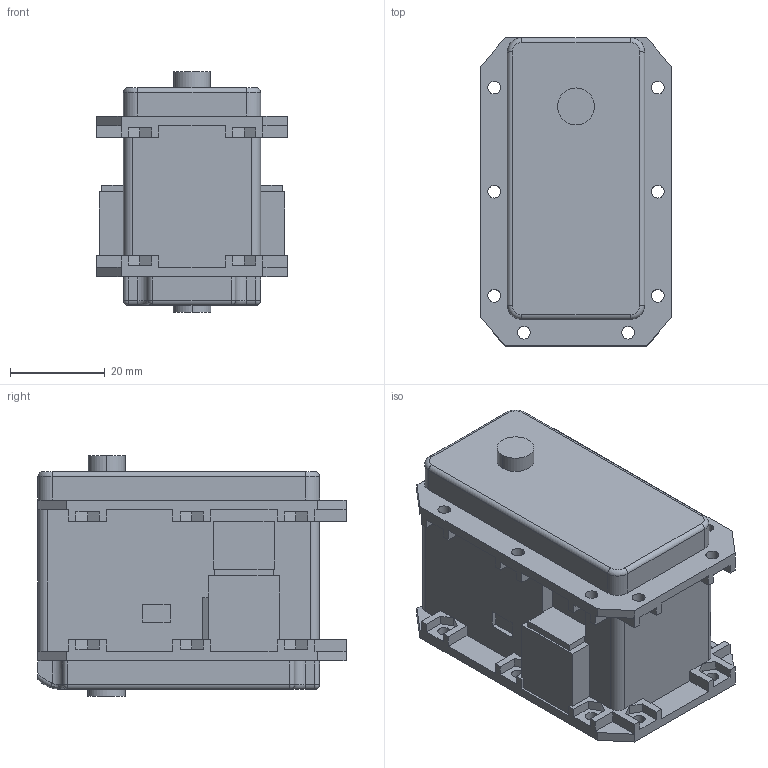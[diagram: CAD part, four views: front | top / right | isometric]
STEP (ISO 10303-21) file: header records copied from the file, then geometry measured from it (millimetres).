
FILE_DESCRIPTION((''),'2;1');
FILE_NAME('DC08_00A_DUMMY_NONE','2011-11-07T',('Andy'),(''),'PRO/ENGINEER BY PARAMETRIC TECHNOLOGY CORPORATION, 2009060','PRO/ENGINEER BY PARAMETRIC TECHNOLOGY CORPORATION, 2009060','');
FILE_SCHEMA(('CONFIG_CONTROL_DESIGN'));
Length unit declared in the file: millimetre
Products named in the file (1): DC08_00A_DUMMY_NONE
Bounding box: 40.2 x 65.1 x 50.9 mm (x, y, z)
Volume: 84478.1 mm3; surface area: 16308.5 mm2
Topology: 1 solids, 1 shells, 340 faces, 928 edges, 596 vertices
Faces by surface type: plane 248, cylinder 74, torus 10, sphere 6, bspline 2
Entity records: 10785 total; most frequent: CARTESIAN_POINT 1977, ORIENTED_EDGE 1856, DIRECTION 1760, EDGE_CURVE 928, VECTOR 760, LINE 760, VERTEX_POINT 596, AXIS2_PLACEMENT_3D 500
